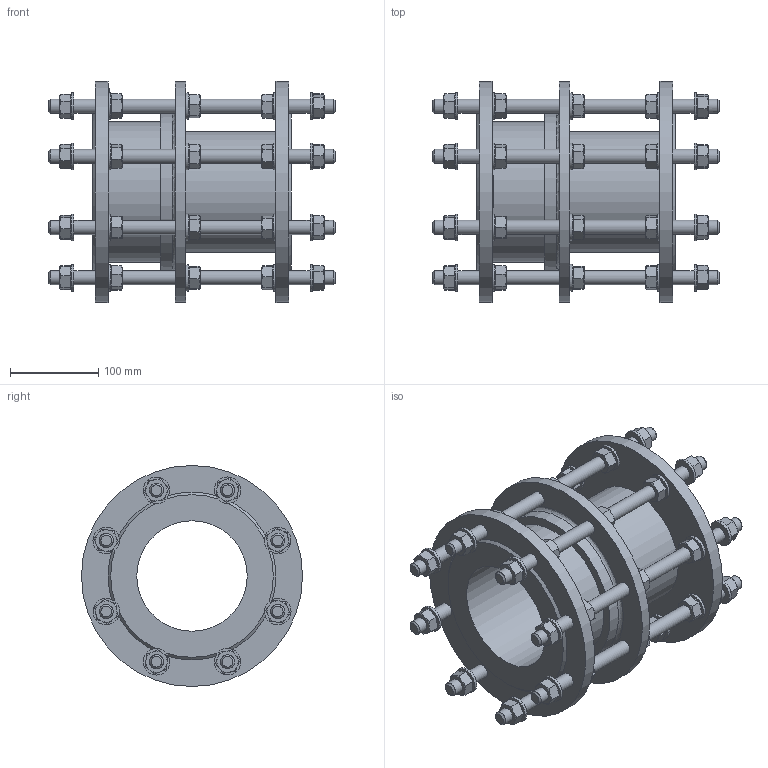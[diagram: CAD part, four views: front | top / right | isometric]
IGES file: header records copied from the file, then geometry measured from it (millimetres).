
Start section: SolidWorks IGES file using analytic representation for surfaces
Global section: file name: \\avksan2\techshare\PBM outline export from Enovia\O_265_910_DN125_1XXXXX00_L=225_REV01.igs; native system: SolidWorks 2022; preprocessor: SolidWorks 2022; author: pbm; date: 241011.101709; units: millimetre
Bounding box: 325 x 250 x 250 mm (x, y, z)
Surface area: 552423.7 mm2 (no closed solid volume)
Topology: 0 solids, 0 shells, 1036 faces, 4307 edges, 4153 vertices
Faces by surface type: bspline 640, revolution 396
